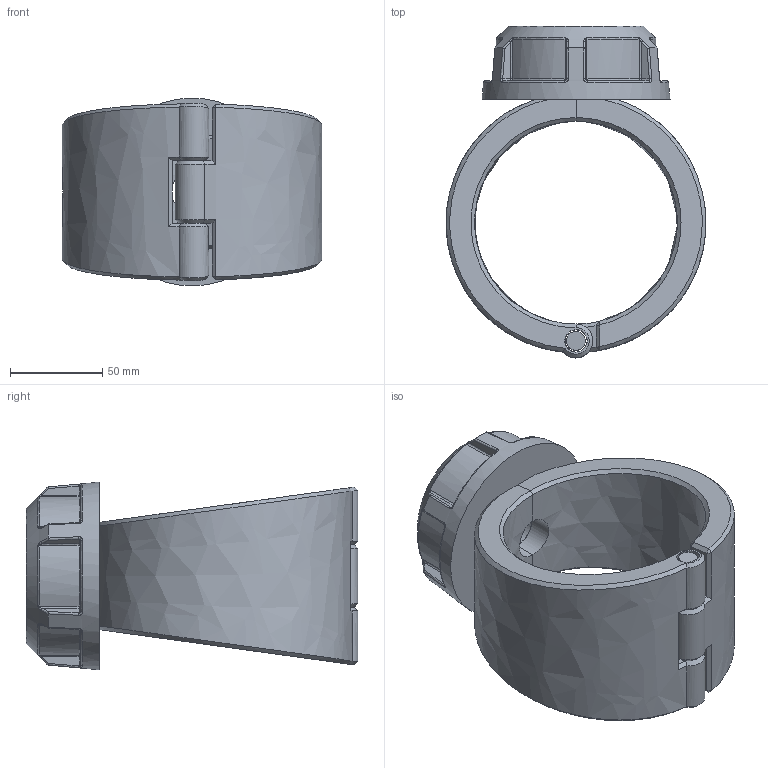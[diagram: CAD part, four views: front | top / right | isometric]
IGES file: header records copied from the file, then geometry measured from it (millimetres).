
Global section: file name: 163000110015; native system: Autodesk Inventor 2019; preprocessor: unknown; author: comp2; date: 20220203.114804; units: millimetre
Bounding box: 141 x 180 x 101.96 mm (x, y, z)
Volume: 651225.9 mm3; surface area: 111765.4 mm2
Topology: 4 solids, 4 shells, 203 faces, 486 edges, 293 vertices
Faces by surface type: bspline 203
